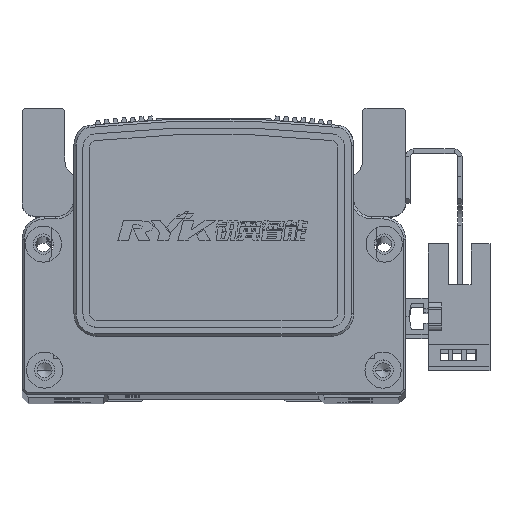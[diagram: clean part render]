
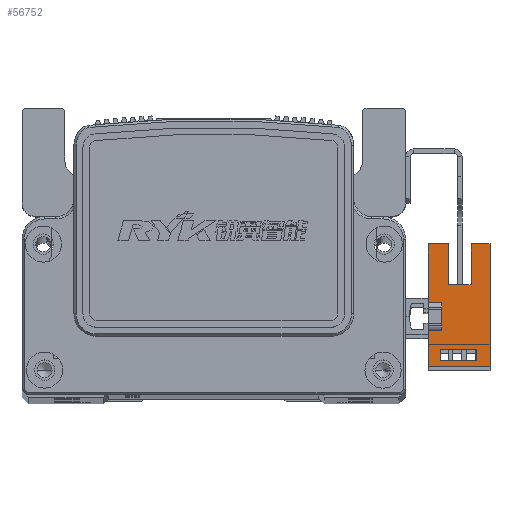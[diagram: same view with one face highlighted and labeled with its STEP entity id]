
A CAD part, top view. The second image highlights one B-rep face of the part: STEP entity #56752.
In plain terms, the highlighted planar face has unit normal (0, 0, 1) as drawn and (1, 0, 0) by its records, which use the part's own axes.
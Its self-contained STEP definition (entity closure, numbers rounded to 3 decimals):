
#56 = FACE_OUTER_BOUND ( 'NONE', #55885, .T. ) ;
#76 = FACE_BOUND ( 'NONE', #55852, .T. ) ;
#1870 = DIRECTION ( 'NONE',  ( 0., 1., 0. ) ) ;
#1877 = PLANE ( 'NONE',  #5852 ) ;
#1896 = DIRECTION ( 'NONE',  ( 1., 0., 0. ) ) ;
#1902 = CARTESIAN_POINT ( 'NONE',  ( 3.2, 16.1, -10.7 ) ) ;
#5852 = AXIS2_PLACEMENT_3D ( 'NONE', #1902, #1896, #1870 ) ;
#8092 = EDGE_CURVE ( 'NONE', #34543, #34593, #27473, .T. ) ;
#8103 = EDGE_CURVE ( 'NONE', #34549, #34651, #27520, .T. ) ;
#8161 = EDGE_CURVE ( 'NONE', #34577, #34695, #26385, .T. ) ;
#8174 = EDGE_CURVE ( 'NONE', #34677, #34549, #27137, .T. ) ;
#8226 = EDGE_CURVE ( 'NONE', #34693, #34763, #20946, .T. ) ;
#8234 = EDGE_CURVE ( 'NONE', #34667, #34713, #20921, .T. ) ;
#8240 = EDGE_CURVE ( 'NONE', #34751, #34607, #20957, .T. ) ;
#8242 = EDGE_CURVE ( 'NONE', #34789, #34693, #20952, .T. ) ;
#8247 = EDGE_CURVE ( 'NONE', #34651, #34707, #20941, .T. ) ;
#8251 = EDGE_CURVE ( 'NONE', #34763, #34743, #20961, .T. ) ;
#8262 = EDGE_CURVE ( 'NONE', #34713, #34695, #20970, .T. ) ;
#8265 = EDGE_CURVE ( 'NONE', #34593, #34751, #20969, .T. ) ;
#8269 = EDGE_CURVE ( 'NONE', #34607, #34577, #21012, .T. ) ;
#8276 = EDGE_CURVE ( 'NONE', #34743, #34789, #21016, .T. ) ;
#8277 = EDGE_CURVE ( 'NONE', #34707, #34667, #20981, .T. ) ;
#8284 = EDGE_CURVE ( 'NONE', #34677, #34543, #21026, .T. ) ;
#20912 = VECTOR ( 'NONE', #58116, 1000. ) ;
#20921 = LINE ( 'NONE', #58129, #20944 ) ;
#20926 = VECTOR ( 'NONE', #58120, 1000. ) ;
#20936 = VECTOR ( 'NONE', #58137, 1000. ) ;
#20941 = LINE ( 'NONE', #58111, #20926 ) ;
#20944 = VECTOR ( 'NONE', #58148, 1000. ) ;
#20946 = LINE ( 'NONE', #58095, #20962 ) ;
#20952 = LINE ( 'NONE', #58130, #20936 ) ;
#20957 = LINE ( 'NONE', #58125, #20912 ) ;
#20961 = LINE ( 'NONE', #58139, #20963 ) ;
#20962 = VECTOR ( 'NONE', #58075, 1000. ) ;
#20963 = VECTOR ( 'NONE', #58142, 1000. ) ;
#20969 = LINE ( 'NONE', #59805, #20978 ) ;
#20970 = LINE ( 'NONE', #59815, #20976 ) ;
#20976 = VECTOR ( 'NONE', #59788, 1000. ) ;
#20978 = VECTOR ( 'NONE', #59797, 1000. ) ;
#20979 = VECTOR ( 'NONE', #59829, 1000. ) ;
#20981 = LINE ( 'NONE', #59818, #21015 ) ;
#20982 = VECTOR ( 'NONE', #59843, 1000. ) ;
#20983 = VECTOR ( 'NONE', #59879, 1000. ) ;
#21012 = LINE ( 'NONE', #59840, #20979 ) ;
#21015 = VECTOR ( 'NONE', #59838, 1000. ) ;
#21016 = LINE ( 'NONE', #59836, #20982 ) ;
#21026 = LINE ( 'NONE', #59874, #20983 ) ;
#26385 = LINE ( 'NONE', #57944, #26386 ) ;
#26386 = VECTOR ( 'NONE', #57941, 1000. ) ;
#27137 = LINE ( 'NONE', #57940, #27151 ) ;
#27151 = VECTOR ( 'NONE', #58012, 1000. ) ;
#27473 = LINE ( 'NONE', #57805, #27489 ) ;
#27489 = VECTOR ( 'NONE', #57807, 1000. ) ;
#27520 = LINE ( 'NONE', #57845, #27547 ) ;
#27547 = VECTOR ( 'NONE', #57847, 1000. ) ;
#34543 = VERTEX_POINT ( 'NONE', #61170 ) ;
#34549 = VERTEX_POINT ( 'NONE', #61180 ) ;
#34577 = VERTEX_POINT ( 'NONE', #61247 ) ;
#34593 = VERTEX_POINT ( 'NONE', #61260 ) ;
#34607 = VERTEX_POINT ( 'NONE', #61256 ) ;
#34651 = VERTEX_POINT ( 'NONE', #61210 ) ;
#34667 = VERTEX_POINT ( 'NONE', #61212 ) ;
#34677 = VERTEX_POINT ( 'NONE', #61259 ) ;
#34693 = VERTEX_POINT ( 'NONE', #61224 ) ;
#34695 = VERTEX_POINT ( 'NONE', #61238 ) ;
#34707 = VERTEX_POINT ( 'NONE', #61327 ) ;
#34713 = VERTEX_POINT ( 'NONE', #61288 ) ;
#34743 = VERTEX_POINT ( 'NONE', #61296 ) ;
#34751 = VERTEX_POINT ( 'NONE', #61291 ) ;
#34763 = VERTEX_POINT ( 'NONE', #61267 ) ;
#34789 = VERTEX_POINT ( 'NONE', #61295 ) ;
#55852 = EDGE_LOOP ( 'NONE', ( #65303, #65295, #65290, #65283 ) ) ;
#55885 = EDGE_LOOP ( 'NONE', ( #65438, #65375, #65493, #65337, #65514, #65315, #65308, #65440, #65365, #65335, #65292, #65371 ) ) ;
#56752 = ADVANCED_FACE ( 'NONE', ( #56, #76 ), #1877, .T. ) ;
#57805 = CARTESIAN_POINT ( 'NONE',  ( 3.2, 16.1, 3. ) ) ;
#57807 = DIRECTION ( 'NONE',  ( 0., 1., 0. ) ) ;
#57845 = CARTESIAN_POINT ( 'NONE',  ( 3.2, 16.1, -10.7 ) ) ;
#57847 = DIRECTION ( 'NONE',  ( 0., 0., 1. ) ) ;
#57940 = CARTESIAN_POINT ( 'NONE',  ( 3.2, 16.1, -10.7 ) ) ;
#57941 = DIRECTION ( 'NONE',  ( 0., 1., 0. ) ) ;
#57944 = CARTESIAN_POINT ( 'NONE',  ( 3.2, 16.1, 3. ) ) ;
#58012 = DIRECTION ( 'NONE',  ( 0., 1., 0. ) ) ;
#58075 = DIRECTION ( 'NONE',  ( 0., 1., 0. ) ) ;
#58095 = CARTESIAN_POINT ( 'NONE',  ( 3.2, 16.1, -7.7 ) ) ;
#58111 = CARTESIAN_POINT ( 'NONE',  ( 3.2, 25.1, -6.5 ) ) ;
#58116 = DIRECTION ( 'NONE',  ( 0., 1., 0. ) ) ;
#58120 = DIRECTION ( 'NONE',  ( 0., -1., 0. ) ) ;
#58125 = CARTESIAN_POINT ( 'NONE',  ( 3.2, 0., 0. ) ) ;
#58129 = CARTESIAN_POINT ( 'NONE',  ( 3.2, 25.1, -1.5 ) ) ;
#58130 = CARTESIAN_POINT ( 'NONE',  ( 3.2, -9.83, -10.7 ) ) ;
#58137 = DIRECTION ( 'NONE',  ( 0., 0., -1. ) ) ;
#58139 = CARTESIAN_POINT ( 'NONE',  ( 3.2, -7.33, -10.7 ) ) ;
#58142 = DIRECTION ( 'NONE',  ( 0., 0., 1. ) ) ;
#58148 = DIRECTION ( 'NONE',  ( 0., 1., 0. ) ) ;
#59788 = DIRECTION ( 'NONE',  ( 0., 0., 1. ) ) ;
#59797 = DIRECTION ( 'NONE',  ( 0., 0., -1. ) ) ;
#59805 = CARTESIAN_POINT ( 'NONE',  ( 3.2, -3.1, 3. ) ) ;
#59815 = CARTESIAN_POINT ( 'NONE',  ( 3.2, 16.1, -10.7 ) ) ;
#59818 = CARTESIAN_POINT ( 'NONE',  ( 3.2, 7.1, -6.5 ) ) ;
#59829 = DIRECTION ( 'NONE',  ( 0., 0., 1. ) ) ;
#59836 = CARTESIAN_POINT ( 'NONE',  ( 3.2, 16.1, 0.3 ) ) ;
#59838 = DIRECTION ( 'NONE',  ( 0., 0., 1. ) ) ;
#59840 = CARTESIAN_POINT ( 'NONE',  ( 3.2, 3.1, 3. ) ) ;
#59843 = DIRECTION ( 'NONE',  ( 0., -1., 0. ) ) ;
#59874 = CARTESIAN_POINT ( 'NONE',  ( 3.2, -11.1, 3. ) ) ;
#59879 = DIRECTION ( 'NONE',  ( 0., 0., 1. ) ) ;
#61170 = CARTESIAN_POINT ( 'NONE',  ( 3.2, -11.1, 3. ) ) ;
#61180 = CARTESIAN_POINT ( 'NONE',  ( 3.2, 16.1, -10.7 ) ) ;
#61210 = CARTESIAN_POINT ( 'NONE',  ( 3.2, 16.1, -6.5 ) ) ;
#61212 = CARTESIAN_POINT ( 'NONE',  ( 3.2, 7.1, -1.5 ) ) ;
#61224 = CARTESIAN_POINT ( 'NONE',  ( 3.2, -9.83, -7.7 ) ) ;
#61238 = CARTESIAN_POINT ( 'NONE',  ( 3.2, 16.1, 3. ) ) ;
#61247 = CARTESIAN_POINT ( 'NONE',  ( 3.2, 3.1, 3. ) ) ;
#61256 = CARTESIAN_POINT ( 'NONE',  ( 3.2, 3.1, 0. ) ) ;
#61259 = CARTESIAN_POINT ( 'NONE',  ( 3.2, -11.1, -10.7 ) ) ;
#61260 = CARTESIAN_POINT ( 'NONE',  ( 3.2, -3.1, 3. ) ) ;
#61267 = CARTESIAN_POINT ( 'NONE',  ( 3.2, -7.33, -7.7 ) ) ;
#61288 = CARTESIAN_POINT ( 'NONE',  ( 3.2, 16.1, -1.5 ) ) ;
#61291 = CARTESIAN_POINT ( 'NONE',  ( 3.2, -3.1, 0. ) ) ;
#61295 = CARTESIAN_POINT ( 'NONE',  ( 3.2, -9.83, 0.3 ) ) ;
#61296 = CARTESIAN_POINT ( 'NONE',  ( 3.2, -7.33, 0.3 ) ) ;
#61327 = CARTESIAN_POINT ( 'NONE',  ( 3.2, 7.1, -6.5 ) ) ;
#65283 = ORIENTED_EDGE ( 'NONE', *, *, #8242, .F. ) ;
#65290 = ORIENTED_EDGE ( 'NONE', *, *, #8226, .F. ) ;
#65292 = ORIENTED_EDGE ( 'NONE', *, *, #8174, .T. ) ;
#65295 = ORIENTED_EDGE ( 'NONE', *, *, #8251, .F. ) ;
#65303 = ORIENTED_EDGE ( 'NONE', *, *, #8276, .F. ) ;
#65308 = ORIENTED_EDGE ( 'NONE', *, *, #8240, .F. ) ;
#65315 = ORIENTED_EDGE ( 'NONE', *, *, #8269, .F. ) ;
#65335 = ORIENTED_EDGE ( 'NONE', *, *, #8284, .F. ) ;
#65337 = ORIENTED_EDGE ( 'NONE', *, *, #8262, .T. ) ;
#65365 = ORIENTED_EDGE ( 'NONE', *, *, #8092, .F. ) ;
#65371 = ORIENTED_EDGE ( 'NONE', *, *, #8103, .T. ) ;
#65375 = ORIENTED_EDGE ( 'NONE', *, *, #8277, .T. ) ;
#65438 = ORIENTED_EDGE ( 'NONE', *, *, #8247, .T. ) ;
#65440 = ORIENTED_EDGE ( 'NONE', *, *, #8265, .F. ) ;
#65493 = ORIENTED_EDGE ( 'NONE', *, *, #8234, .T. ) ;
#65514 = ORIENTED_EDGE ( 'NONE', *, *, #8161, .F. ) ;
